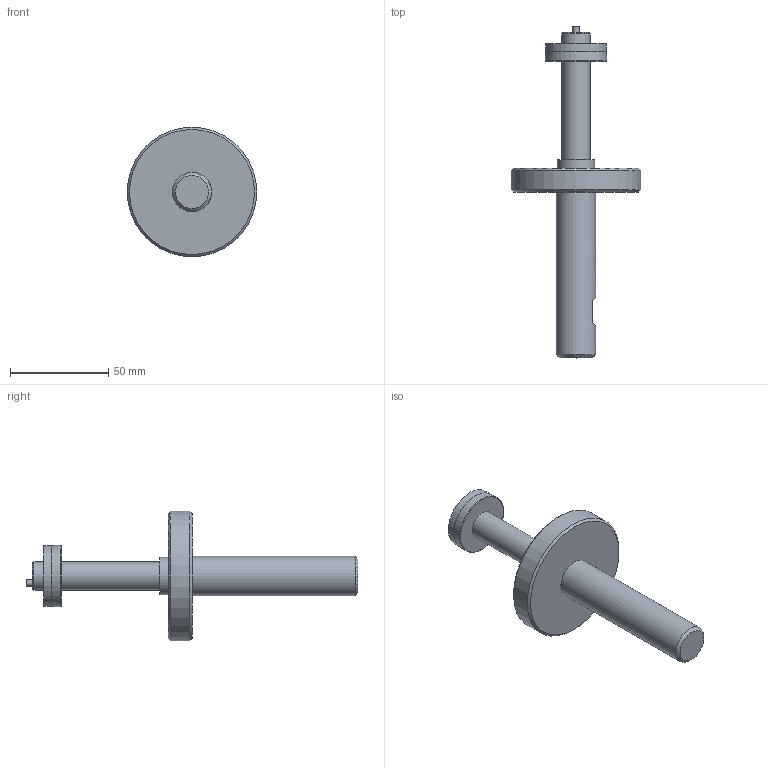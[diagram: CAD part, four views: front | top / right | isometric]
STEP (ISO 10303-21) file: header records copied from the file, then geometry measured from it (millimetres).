
FILE_DESCRIPTION (( 'STEP AP203' ), '1' );
FILE_NAME ('AF56-SIMPLE - AF56-14.50M-31.50M.step', '2025-01-22T13:32:44', ( '' ), ( '' ), 'SwSTEP 2.0', 'SolidWorks 2024', '' );
FILE_SCHEMA (( 'CONFIG_CONTROL_DESIGN' ));
Length unit declared in the file: inch
Products named in the file (1): AF56-SIMPLE - AF56-14.50M-31.50M
Bounding box: 66.04 x 169.29 x 66.04 mm (x, y, z)
Volume: 84950.3 mm3; surface area: 19231.3 mm2
Topology: 1 solids, 1 shells, 24 faces, 40 edges, 25 vertices
Faces by surface type: plane 11, cylinder 7, cone 5, torus 1
Full cylindrical faces by diameter (mm): 3.175 x1, 14.376 x2, 19.05 x1, 20 x1, 30.994 x1, 66.04 x1
Entity records: 569 total; most frequent: DIRECTION 94, CARTESIAN_POINT 81, ORIENTED_EDGE 52, AXIS2_PLACEMENT_3D 45, EDGE_LOOP 44, FACE_OUTER_BOUND 32, EDGE_CURVE 26, ADVANCED_FACE 24
